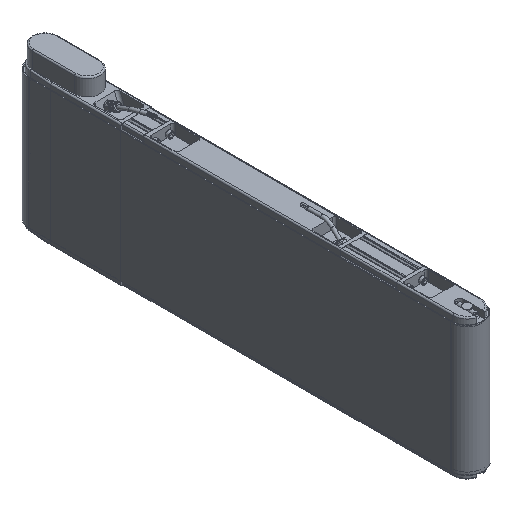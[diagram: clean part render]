
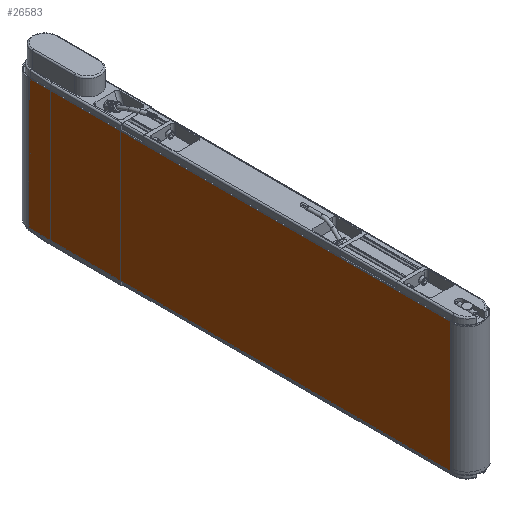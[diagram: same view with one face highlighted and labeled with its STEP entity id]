
A CAD part, isometric view. The second image highlights one B-rep face of the part: STEP entity #26583.
In plain terms, the highlighted planar face has unit normal (-1, 0, 0).
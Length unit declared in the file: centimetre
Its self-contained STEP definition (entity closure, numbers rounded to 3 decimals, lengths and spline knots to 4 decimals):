
#807=PLANE('',#28023);
#1515=FACE_OUTER_BOUND('',#2904,.T.);
#2904=EDGE_LOOP('',(#16942,#16943,#16944,#16945));
#4510=LINE('',#38518,#6659);
#4511=LINE('',#38523,#6660);
#4513=LINE('',#38527,#6662);
#4514=LINE('',#38528,#6663);
#6659=VECTOR('',#30840,1.);
#6660=VECTOR('',#30845,1.);
#6662=VECTOR('',#30849,1.);
#6663=VECTOR('',#30850,1.);
#10228=VERTEX_POINT('',#38512);
#10230=VERTEX_POINT('',#38516);
#10232=VERTEX_POINT('',#38521);
#10233=VERTEX_POINT('',#38526);
#12978=EDGE_CURVE('',#10228,#10230,#4510,.T.);
#12980=EDGE_CURVE('',#10232,#10230,#4511,.T.);
#12982=EDGE_CURVE('',#10232,#10233,#4513,.T.);
#12983=EDGE_CURVE('',#10233,#10228,#4514,.T.);
#16942=ORIENTED_EDGE('',*,*,#12982,.T.);
#16943=ORIENTED_EDGE('',*,*,#12983,.T.);
#16944=ORIENTED_EDGE('',*,*,#12978,.T.);
#16945=ORIENTED_EDGE('',*,*,#12980,.F.);
#26583=ADVANCED_FACE('',(#1515),#807,.T.);
#28023=AXIS2_PLACEMENT_3D('',#38525,#30847,#30848);
#30840=DIRECTION('',(0.,-1.,0.));
#30845=DIRECTION('',(0.,0.,-1.));
#30847=DIRECTION('center_axis',(-1.,0.,0.));
#30848=DIRECTION('ref_axis',(0.,0.,-1.));
#30849=DIRECTION('',(0.,1.,0.));
#30850=DIRECTION('',(0.,0.,-1.));
#38512=CARTESIAN_POINT('',(-2.32,13.,-9.25));
#38516=CARTESIAN_POINT('',(-2.32,-47.,-9.25));
#38518=CARTESIAN_POINT('',(-2.32,-47.,-9.25));
#38521=CARTESIAN_POINT('',(-2.32,-47.,9.25));
#38523=CARTESIAN_POINT('',(-2.32,-47.,0.));
#38525=CARTESIAN_POINT('Origin',(-2.32,-47.,0.));
#38526=CARTESIAN_POINT('',(-2.32,13.,9.25));
#38527=CARTESIAN_POINT('',(-2.32,-47.,9.25));
#38528=CARTESIAN_POINT('',(-2.32,13.,0.));
